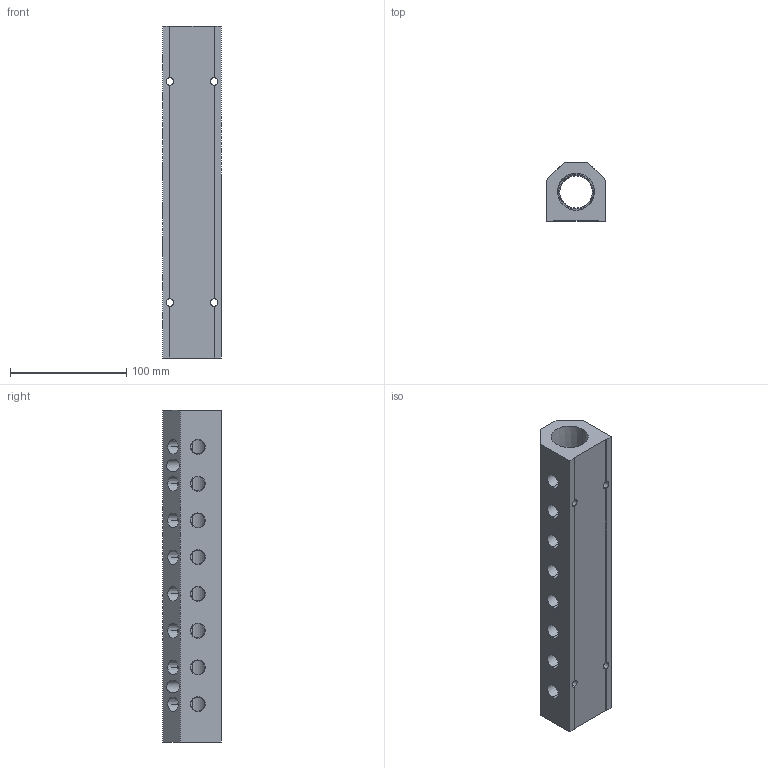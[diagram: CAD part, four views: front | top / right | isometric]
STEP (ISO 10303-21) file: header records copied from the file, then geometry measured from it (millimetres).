
FILE_DESCRIPTION (( 'STEP AP214' ), '1' );
FILE_NAME ('ALM8AB-N4N16-286B.STEP', '2023-11-02T06:38:11', ( '' ), ( '' ), 'SwSTEP 2.0', 'SolidWorks 2020', '' );
FILE_SCHEMA (( 'AUTOMOTIVE_DESIGN' ));
Length unit declared in the file: millimetre
Products named in the file (1): ALM8AB-N4N16-286B
Bounding box: 50.8 x 50.8 x 286 mm (x, y, z)
Volume: 450013.9 mm3; surface area: 89179.8 mm2
Topology: 1 solids, 1 shells, 345 faces, 923 edges, 610 vertices
Faces by surface type: plane 204, bspline 79, cone 40, cylinder 22
Entity records: 19670 total; most frequent: CARTESIAN_POINT 8430, ORIENTED_EDGE 1846, DIRECTION 1311, EDGE_CURVE 923, VECTOR 625, LINE 625, VERTEX_POINT 610, EDGE_LOOP 417
